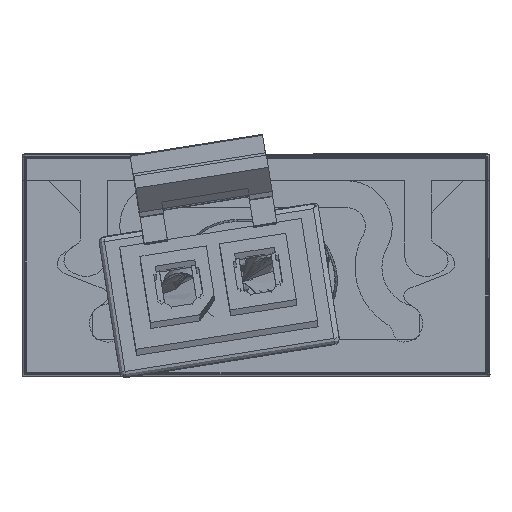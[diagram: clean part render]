
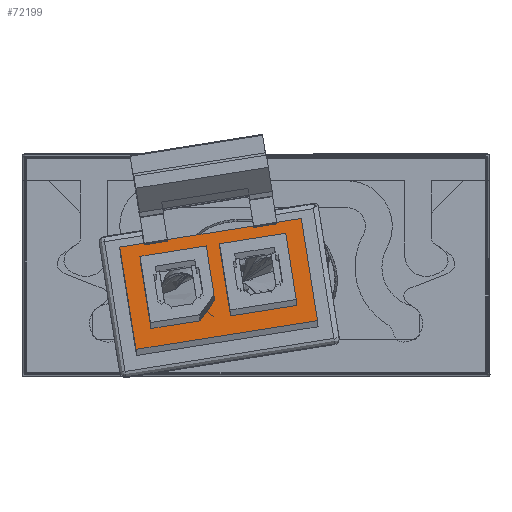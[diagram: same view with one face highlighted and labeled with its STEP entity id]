
A CAD part, front view. The second image highlights one B-rep face of the part: STEP entity #72199.
In plain terms, the highlighted planar face has unit normal (-0.003, -0.999, 0.035).
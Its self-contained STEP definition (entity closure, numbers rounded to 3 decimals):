
#33 = DIRECTION ( 'NONE',  ( -0.156, 0.035, 0.987 ) ) ;
#77 = VERTEX_POINT ( 'NONE', #30286 ) ;
#152 = CARTESIAN_POINT ( 'NONE',  ( -0.951, -271.648, 2.274 ) ) ;
#499 = EDGE_CURVE ( 'NONE', #61105, #38018, #3421, .T. ) ;
#924 = CARTESIAN_POINT ( 'NONE',  ( -0.951, -271.648, 2.274 ) ) ;
#2036 = EDGE_CURVE ( 'NONE', #31547, #78365, #63382, .T. ) ;
#3421 = LINE ( 'NONE', #23744, #57134 ) ;
#3481 = ORIENTED_EDGE ( 'NONE', *, *, #18537, .F. ) ;
#4686 = DIRECTION ( 'NONE',  ( 0.156, -0.035, -0.987 ) ) ;
#5483 = VERTEX_POINT ( 'NONE', #59730 ) ;
#7420 = ORIENTED_EDGE ( 'NONE', *, *, #47856, .F. ) ;
#8264 = EDGE_CURVE ( 'NONE', #38018, #41610, #52993, .T. ) ;
#8558 = VECTOR ( 'NONE', #4686, 1000. ) ;
#11189 = ORIENTED_EDGE ( 'NONE', *, *, #48057, .T. ) ;
#12568 = CARTESIAN_POINT ( 'NONE',  ( -5.078, -271.546, 4.838 ) ) ;
#13322 = DIRECTION ( 'NONE',  ( 0.988, 0.002, 0.156 ) ) ;
#13340 = VERTEX_POINT ( 'NONE', #18911 ) ;
#13669 = VECTOR ( 'NONE', #13322, 1000. ) ;
#14030 = LINE ( 'NONE', #924, #76735 ) ;
#15195 = CARTESIAN_POINT ( 'NONE',  ( -2.087, -271.651, 2.094 ) ) ;
#15493 = VERTEX_POINT ( 'NONE', #17660 ) ;
#16021 = ORIENTED_EDGE ( 'NONE', *, *, #74693, .T. ) ;
#16170 = DIRECTION ( 'NONE',  ( -0.988, -0.002, -0.156 ) ) ;
#17599 = EDGE_CURVE ( 'NONE', #13340, #31547, #64442, .T. ) ;
#17660 = CARTESIAN_POINT ( 'NONE',  ( 1.688, -271.53, 5.909 ) ) ;
#17783 = VERTEX_POINT ( 'NONE', #28475 ) ;
#17797 = DIRECTION ( 'NONE',  ( 0.156, -0.035, -0.987 ) ) ;
#18537 = EDGE_CURVE ( 'NONE', #77, #15493, #25697, .T. ) ;
#18911 = CARTESIAN_POINT ( 'NONE',  ( 1.128, -271.555, 5.132 ) ) ;
#19269 = DIRECTION ( 'NONE',  ( 0.988, 0.002, 0.156 ) ) ;
#19626 = ORIENTED_EDGE ( 'NONE', *, *, #2036, .T. ) ;
#19678 = LINE ( 'NONE', #45486, #13669 ) ;
#20693 = CARTESIAN_POINT ( 'NONE',  ( -4.474, -271.681, 1.028 ) ) ;
#21701 = DIRECTION ( 'NONE',  ( -0.156, 0.035, 0.987 ) ) ;
#22933 = CARTESIAN_POINT ( 'NONE',  ( -1.342, -271.561, 4.741 ) ) ;
#23744 = CARTESIAN_POINT ( 'NONE',  ( -1.835, -271.562, 4.663 ) ) ;
#24510 = CARTESIAN_POINT ( 'NONE',  ( -1.445, -271.649, 2.195 ) ) ;
#25486 = FACE_OUTER_BOUND ( 'NONE', #47958, .T. ) ;
#25697 = LINE ( 'NONE', #69640, #61071 ) ;
#26160 = ORIENTED_EDGE ( 'NONE', *, *, #499, .T. ) ;
#26738 = DIRECTION ( 'NONE',  ( -0.003, -0.999, 0.035 ) ) ;
#28475 = CARTESIAN_POINT ( 'NONE',  ( -4.305, -271.568, 4.272 ) ) ;
#28790 = EDGE_CURVE ( 'NONE', #77, #63588, #70528, .T. ) ;
#29756 = EDGE_LOOP ( 'NONE', ( #11189, #26160, #79233, #78506, #33107 ) ) ;
#30286 = CARTESIAN_POINT ( 'NONE',  ( -5.078, -271.546, 4.838 ) ) ;
#30426 = VECTOR ( 'NONE', #38462, 1000. ) ;
#30808 = EDGE_LOOP ( 'NONE', ( #16021, #80406, #19626, #67368 ) ) ;
#31547 = VERTEX_POINT ( 'NONE', #40982 ) ;
#31796 = FACE_BOUND ( 'NONE', #29756, .T. ) ;
#32333 = EDGE_CURVE ( 'NONE', #46877, #17783, #81397, .T. ) ;
#33107 = ORIENTED_EDGE ( 'NONE', *, *, #32333, .T. ) ;
#34270 = LINE ( 'NONE', #80442, #45176 ) ;
#35989 = DIRECTION ( 'NONE',  ( -0.988, -0.002, -0.156 ) ) ;
#36687 = VECTOR ( 'NONE', #83584, 1000. ) ;
#37608 = VECTOR ( 'NONE', #63381, 1000. ) ;
#38018 = VERTEX_POINT ( 'NONE', #65494 ) ;
#38462 = DIRECTION ( 'NONE',  ( 0.156, -0.035, -0.987 ) ) ;
#39350 = CARTESIAN_POINT ( 'NONE',  ( -1.835, -271.562, 4.663 ) ) ;
#40982 = CARTESIAN_POINT ( 'NONE',  ( 1.519, -271.642, 2.665 ) ) ;
#41610 = VERTEX_POINT ( 'NONE', #15195 ) ;
#44970 = DIRECTION ( 'NONE',  ( -0.156, 0.035, 0.987 ) ) ;
#45176 = VECTOR ( 'NONE', #73588, 1000. ) ;
#45486 = CARTESIAN_POINT ( 'NONE',  ( -1.342, -271.561, 4.741 ) ) ;
#46490 = DIRECTION ( 'NONE',  ( 0.988, 0.002, 0.156 ) ) ;
#46877 = VERTEX_POINT ( 'NONE', #53410 ) ;
#47856 = EDGE_CURVE ( 'NONE', #15493, #5483, #76183, .T. ) ;
#47958 = EDGE_LOOP ( 'NONE', ( #7420, #3481, #73069, #79765 ) ) ;
#48057 = EDGE_CURVE ( 'NONE', #17783, #61105, #34270, .T. ) ;
#50309 = LINE ( 'NONE', #24510, #62035 ) ;
#50847 = CARTESIAN_POINT ( 'NONE',  ( 1.688, -271.53, 5.909 ) ) ;
#51299 = PLANE ( 'NONE',  #68825 ) ;
#51844 = VERTEX_POINT ( 'NONE', #22933 ) ;
#52449 = VECTOR ( 'NONE', #16170, 1000. ) ;
#52993 = LINE ( 'NONE', #57039, #37608 ) ;
#53410 = CARTESIAN_POINT ( 'NONE',  ( -3.914, -271.655, 1.804 ) ) ;
#56753 = EDGE_CURVE ( 'NONE', #78365, #51844, #14030, .T. ) ;
#57039 = CARTESIAN_POINT ( 'NONE',  ( -1.546, -271.627, 2.837 ) ) ;
#57134 = VECTOR ( 'NONE', #17797, 1000. ) ;
#59730 = CARTESIAN_POINT ( 'NONE',  ( 2.292, -271.664, 2.099 ) ) ;
#61071 = VECTOR ( 'NONE', #19269, 1000. ) ;
#61105 = VERTEX_POINT ( 'NONE', #39350 ) ;
#62035 = VECTOR ( 'NONE', #35989, 1000. ) ;
#63381 = DIRECTION ( 'NONE',  ( -0.588, -0.026, -0.809 ) ) ;
#63382 = LINE ( 'NONE', #82933, #52449 ) ;
#63588 = VERTEX_POINT ( 'NONE', #64628 ) ;
#64025 = CARTESIAN_POINT ( 'NONE',  ( 1.128, -271.555, 5.132 ) ) ;
#64442 = LINE ( 'NONE', #64025, #36687 ) ;
#64628 = CARTESIAN_POINT ( 'NONE',  ( -4.474, -271.681, 1.028 ) ) ;
#65182 = CARTESIAN_POINT ( 'NONE',  ( -5.078, -271.546, 4.838 ) ) ;
#65494 = CARTESIAN_POINT ( 'NONE',  ( -1.546, -271.627, 2.837 ) ) ;
#67368 = ORIENTED_EDGE ( 'NONE', *, *, #56753, .T. ) ;
#68825 = AXIS2_PLACEMENT_3D ( 'NONE', #65182, #26738, #33 ) ;
#69640 = CARTESIAN_POINT ( 'NONE',  ( -5.078, -271.546, 4.838 ) ) ;
#70528 = LINE ( 'NONE', #12568, #30426 ) ;
#70796 = VECTOR ( 'NONE', #21701, 1000. ) ;
#71053 = LINE ( 'NONE', #20693, #83467 ) ;
#72199 = ADVANCED_FACE ( 'NONE', ( #31796, #83500, #25486 ), #51299, .T. ) ;
#73069 = ORIENTED_EDGE ( 'NONE', *, *, #28790, .T. ) ;
#73588 = DIRECTION ( 'NONE',  ( 0.988, 0.002, 0.156 ) ) ;
#74693 = EDGE_CURVE ( 'NONE', #51844, #13340, #19678, .T. ) ;
#76183 = LINE ( 'NONE', #50847, #8558 ) ;
#76735 = VECTOR ( 'NONE', #44970, 1000. ) ;
#78365 = VERTEX_POINT ( 'NONE', #152 ) ;
#78506 = ORIENTED_EDGE ( 'NONE', *, *, #82163, .T. ) ;
#79233 = ORIENTED_EDGE ( 'NONE', *, *, #8264, .T. ) ;
#79723 = CARTESIAN_POINT ( 'NONE',  ( -3.914, -271.655, 1.804 ) ) ;
#79765 = ORIENTED_EDGE ( 'NONE', *, *, #80395, .T. ) ;
#80395 = EDGE_CURVE ( 'NONE', #63588, #5483, #71053, .T. ) ;
#80406 = ORIENTED_EDGE ( 'NONE', *, *, #17599, .T. ) ;
#80442 = CARTESIAN_POINT ( 'NONE',  ( -4.305, -271.568, 4.272 ) ) ;
#81397 = LINE ( 'NONE', #79723, #70796 ) ;
#82163 = EDGE_CURVE ( 'NONE', #41610, #46877, #50309, .T. ) ;
#82933 = CARTESIAN_POINT ( 'NONE',  ( 1.519, -271.642, 2.665 ) ) ;
#83467 = VECTOR ( 'NONE', #46490, 1000. ) ;
#83500 = FACE_BOUND ( 'NONE', #30808, .T. ) ;
#83584 = DIRECTION ( 'NONE',  ( 0.156, -0.035, -0.987 ) ) ;
